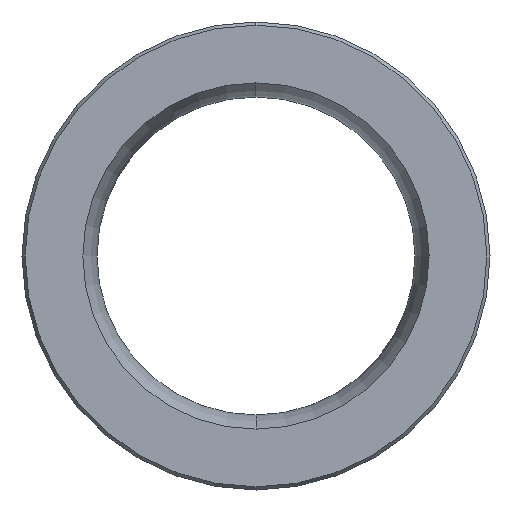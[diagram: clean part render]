
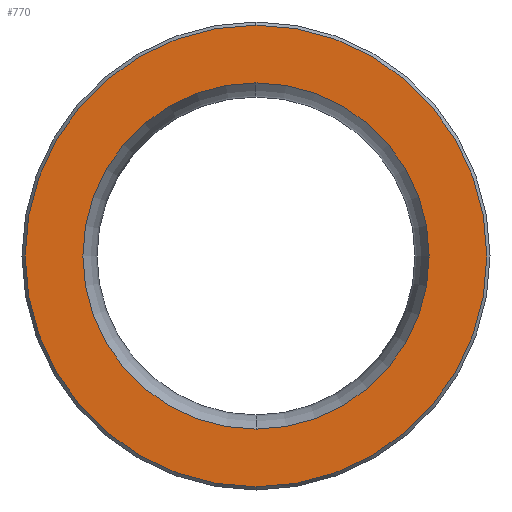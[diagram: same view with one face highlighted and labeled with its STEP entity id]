
A CAD part, left-side view. The second image highlights one B-rep face of the part: STEP entity #770.
In plain terms, the highlighted planar face has unit normal (-1, 0, 0).
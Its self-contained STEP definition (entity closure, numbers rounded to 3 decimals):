
#317=CARTESIAN_POINT('',(0.0,4.0,0.0));
#318=VERTEX_POINT('',#317);
#327=CARTESIAN_POINT('',(0.0,-4.0,0.));
#328=VERTEX_POINT('',#327);
#329=CARTESIAN_POINT('',(0.0,0.0,0.0));
#330=DIRECTION('',(1.0,0.0,0.0));
#331=DIRECTION('',(0.0,1.0,0.0));
#332=AXIS2_PLACEMENT_3D('',#329,#330,#331);
#333=CIRCLE('',#332,4.0);
#334=EDGE_CURVE('',#318,#328,#333,.T.);
#368=CARTESIAN_POINT('',(0.,3.,0.0));
#369=VERTEX_POINT('',#368);
#376=CARTESIAN_POINT('',(0.0,-3.,0.));
#377=VERTEX_POINT('',#376);
#378=CARTESIAN_POINT('',(0.,0.0,0.0));
#379=DIRECTION('',(1.0,0.0,0.0));
#380=DIRECTION('',(0.0,1.0,0.0));
#381=AXIS2_PLACEMENT_3D('',#378,#379,#380);
#382=CIRCLE('',#381,3.);
#383=EDGE_CURVE('',#377,#369,#382,.T.);
#741=CARTESIAN_POINT('',(0.,0.0,0.0));
#742=DIRECTION('',(1.0,0.0,0.0));
#743=DIRECTION('',(0.0,1.0,0.0));
#744=AXIS2_PLACEMENT_3D('',#741,#742,#743);
#745=CIRCLE('',#744,3.);
#746=EDGE_CURVE('',#369,#377,#745,.T.);
#751=CARTESIAN_POINT('',(0.,3.5,0.0));
#752=DIRECTION('',(-1.0,0.0,0.0));
#753=DIRECTION('',(0.0,0.0,1.0));
#754=AXIS2_PLACEMENT_3D('',#751,#752,#753);
#755=PLANE('',#754);
#756=ORIENTED_EDGE('',*,*,#334,.F.);
#757=CARTESIAN_POINT('',(0.0,0.0,0.0));
#758=DIRECTION('',(1.0,0.0,0.0));
#759=DIRECTION('',(0.0,1.0,0.0));
#760=AXIS2_PLACEMENT_3D('',#757,#758,#759);
#761=CIRCLE('',#760,4.0);
#762=EDGE_CURVE('',#328,#318,#761,.T.);
#763=ORIENTED_EDGE('',*,*,#762,.F.);
#764=EDGE_LOOP('',(#756,#763));
#765=FACE_OUTER_BOUND('',#764,.T.);
#766=ORIENTED_EDGE('',*,*,#746,.T.);
#767=ORIENTED_EDGE('',*,*,#383,.T.);
#768=EDGE_LOOP('',(#766,#767));
#769=FACE_BOUND('',#768,.T.);
#770=ADVANCED_FACE('',(#765,#769),#755,.T.);
